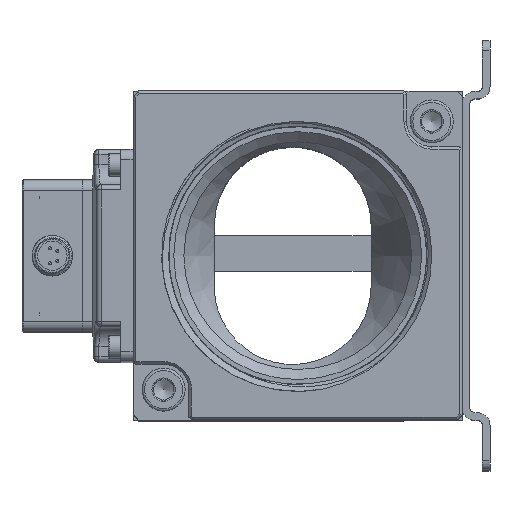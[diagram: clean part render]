
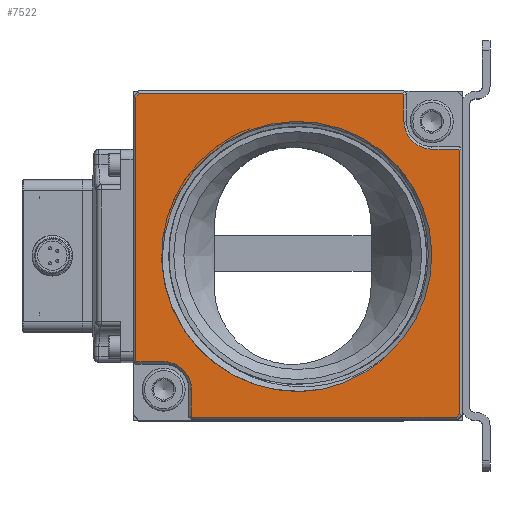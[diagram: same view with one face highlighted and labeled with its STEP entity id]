
A CAD part, top view. The second image highlights one B-rep face of the part: STEP entity #7522.
In plain terms, the highlighted planar face has unit normal (0, 0, 1).
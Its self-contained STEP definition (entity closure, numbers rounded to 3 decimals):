
#416=B_SPLINE_CURVE_WITH_KNOTS('',3,(#37040,#37041,#37042,#37043),
 .UNSPECIFIED.,.F.,.F.,(4,4),(0.,1.),.UNSPECIFIED.);
#417=B_SPLINE_CURVE_WITH_KNOTS('',3,(#37047,#37048,#37049,#37050),
 .UNSPECIFIED.,.F.,.F.,(4,4),(0.,1.),.UNSPECIFIED.);
#2225=LINE('',#36196,#4544);
#2229=LINE('',#36208,#4548);
#2235=LINE('',#36221,#4554);
#2239=LINE('',#36233,#4558);
#2242=LINE('',#36239,#4561);
#2244=LINE('',#36244,#4563);
#2246=LINE('',#36247,#4565);
#2257=LINE('',#36271,#4576);
#2267=LINE('',#36952,#4586);
#2272=LINE('',#36962,#4591);
#2275=LINE('',#36968,#4594);
#2277=LINE('',#36971,#4596);
#2285=LINE('',#36989,#4604);
#2290=LINE('',#36999,#4609);
#4544=VECTOR('',#29136,1.);
#4548=VECTOR('',#29148,1.);
#4554=VECTOR('',#29156,1.);
#4558=VECTOR('',#29168,1.);
#4561=VECTOR('',#29173,1.);
#4563=VECTOR('',#29177,1.);
#4565=VECTOR('',#29181,1.);
#4576=VECTOR('',#29202,1.);
#4586=VECTOR('',#29226,1.);
#4591=VECTOR('',#29235,1.);
#4594=VECTOR('',#29242,1.);
#4596=VECTOR('',#29246,1.);
#4604=VECTOR('',#29262,1.);
#4609=VECTOR('',#29271,1.);
#7522=ADVANCED_FACE('',(#10017,#10018),#9076,.F.);
#9076=PLANE('',#26832);
#10017=FACE_BOUND('',#10782,.T.);
#10018=FACE_BOUND('',#10783,.T.);
#10782=EDGE_LOOP('',(#12879,#12880,#12881,#12882,#12883,#12884,#12885,#12886,
#12887,#12888,#12889,#12890,#12891,#12892,#12893,#12894));
#10783=EDGE_LOOP('',(#12895,#12896,#12897,#12898));
#12879=ORIENTED_EDGE('',*,*,#22389,.T.);
#12880=ORIENTED_EDGE('',*,*,#22386,.T.);
#12881=ORIENTED_EDGE('',*,*,#22381,.T.);
#12882=ORIENTED_EDGE('',*,*,#22351,.T.);
#12883=ORIENTED_EDGE('',*,*,#22348,.T.);
#12884=ORIENTED_EDGE('',*,*,#22345,.T.);
#12885=ORIENTED_EDGE('',*,*,#22342,.T.);
#12886=ORIENTED_EDGE('',*,*,#22367,.T.);
#12887=ORIENTED_EDGE('',*,*,#22405,.T.);
#12888=ORIENTED_EDGE('',*,*,#22400,.T.);
#12889=ORIENTED_EDGE('',*,*,#22391,.T.);
#12890=ORIENTED_EDGE('',*,*,#22355,.T.);
#12891=ORIENTED_EDGE('',*,*,#22336,.T.);
#12892=ORIENTED_EDGE('',*,*,#22333,.T.);
#12893=ORIENTED_EDGE('',*,*,#22330,.T.);
#12894=ORIENTED_EDGE('',*,*,#22353,.T.);
#12895=ORIENTED_EDGE('',*,*,#22423,.F.);
#12896=ORIENTED_EDGE('',*,*,#22424,.T.);
#12897=ORIENTED_EDGE('',*,*,#22425,.F.);
#12898=ORIENTED_EDGE('',*,*,#22375,.F.);
#19915=VERTEX_POINT('',#36195);
#19916=VERTEX_POINT('',#36197);
#19918=VERTEX_POINT('',#36203);
#19920=VERTEX_POINT('',#36209);
#19922=VERTEX_POINT('',#36215);
#19925=VERTEX_POINT('',#36220);
#19926=VERTEX_POINT('',#36224);
#19928=VERTEX_POINT('',#36230);
#19930=VERTEX_POINT('',#36236);
#19933=VERTEX_POINT('',#36243);
#19934=VERTEX_POINT('',#36248);
#19941=VERTEX_POINT('',#36270);
#19946=VERTEX_POINT('',#36288);
#19947=VERTEX_POINT('',#36289);
#19950=VERTEX_POINT('',#36949);
#19953=VERTEX_POINT('',#36959);
#19956=VERTEX_POINT('',#36972);
#19962=VERTEX_POINT('',#36990);
#19972=VERTEX_POINT('',#37044);
#19973=VERTEX_POINT('',#37046);
#22330=EDGE_CURVE('',#19916,#19915,#2225,.T.);
#22333=EDGE_CURVE('',#19918,#19916,#25934,.T.);
#22336=EDGE_CURVE('',#19920,#19918,#2229,.T.);
#22342=EDGE_CURVE('',#19922,#19925,#2235,.T.);
#22345=EDGE_CURVE('',#19926,#19922,#25937,.T.);
#22348=EDGE_CURVE('',#19928,#19926,#2239,.T.);
#22351=EDGE_CURVE('',#19930,#19928,#2242,.T.);
#22353=EDGE_CURVE('',#19915,#19933,#2244,.T.);
#22355=EDGE_CURVE('',#19934,#19920,#2246,.T.);
#22367=EDGE_CURVE('',#19925,#19941,#2257,.T.);
#22375=EDGE_CURVE('',#19946,#19947,#25940,.T.);
#22381=EDGE_CURVE('',#19950,#19930,#2267,.T.);
#22386=EDGE_CURVE('',#19953,#19950,#2272,.T.);
#22389=EDGE_CURVE('',#19933,#19953,#2275,.T.);
#22391=EDGE_CURVE('',#19956,#19934,#2277,.T.);
#22400=EDGE_CURVE('',#19962,#19956,#2285,.T.);
#22405=EDGE_CURVE('',#19941,#19962,#2290,.T.);
#22423=EDGE_CURVE('',#19972,#19946,#416,.T.);
#22424=EDGE_CURVE('',#19972,#19973,#25947,.T.);
#22425=EDGE_CURVE('',#19947,#19973,#417,.T.);
#25934=CIRCLE('',#26776,5.5);
#25937=CIRCLE('',#26782,5.5);
#25940=CIRCLE('',#26797,26.873);
#25947=CIRCLE('',#26831,26.5);
#26776=AXIS2_PLACEMENT_3D('',#36202,#29141,#29142);
#26782=AXIS2_PLACEMENT_3D('',#36227,#29162,#29163);
#26797=AXIS2_PLACEMENT_3D('',#36287,#29219,#29220);
#26831=AXIS2_PLACEMENT_3D('',#37045,#29326,#29327);
#26832=AXIS2_PLACEMENT_3D('',#37051,#29328,#29329);
#29136=DIRECTION('',(0.,1.,0.));
#29141=DIRECTION('',(0.,0.,-1.));
#29142=DIRECTION('',(-1.,0.,0.));
#29148=DIRECTION('',(-1.,0.,0.));
#29156=DIRECTION('',(0.,-1.,0.));
#29162=DIRECTION('',(0.,0.,-1.));
#29163=DIRECTION('',(-1.,0.,0.));
#29168=DIRECTION('',(1.,-0.002,0.));
#29173=DIRECTION('',(0.707,-0.708,0.));
#29177=DIRECTION('',(-0.707,0.707,0.));
#29181=DIRECTION('',(-0.707,0.707,0.));
#29202=DIRECTION('',(0.707,-0.707,0.));
#29219=DIRECTION('',(0.,0.,1.));
#29220=DIRECTION('',(-1.,0.,0.));
#29226=DIRECTION('',(0.,-1.,0.));
#29235=DIRECTION('',(-0.707,-0.707,0.));
#29242=DIRECTION('',(-1.,0.,0.));
#29246=DIRECTION('',(0.,1.,0.));
#29262=DIRECTION('',(0.707,0.707,0.));
#29271=DIRECTION('',(1.,0.,0.));
#29326=DIRECTION('',(0.,0.,-1.));
#29327=DIRECTION('',(-1.,0.,0.));
#29328=DIRECTION('',(0.,0.,-1.));
#29329=DIRECTION('',(-1.,0.,0.));
#36195=CARTESIAN_POINT('',(50.5,59.293,22.));
#36196=CARTESIAN_POINT('',(50.5,59.5,22.));
#36197=CARTESIAN_POINT('',(50.5,54.,22.));
#36202=CARTESIAN_POINT('',(56.,54.,22.));
#36203=CARTESIAN_POINT('',(56.,48.5,22.));
#36208=CARTESIAN_POINT('',(56.,48.5,22.));
#36209=CARTESIAN_POINT('',(61.293,48.5,22.));
#36215=CARTESIAN_POINT('',(8.5,1.,22.));
#36220=CARTESIAN_POINT('',(8.5,-4.293,22.));
#36221=CARTESIAN_POINT('',(8.5,-4.5,22.));
#36224=CARTESIAN_POINT('',(3.009,6.5,22.));
#36227=CARTESIAN_POINT('',(3.,1.,22.));
#36230=CARTESIAN_POINT('',(-2.292,6.508,22.));
#36233=CARTESIAN_POINT('',(3.009,6.5,22.));
#36236=CARTESIAN_POINT('',(-2.5,6.716,22.));
#36239=CARTESIAN_POINT('',(-2.146,6.362,22.));
#36243=CARTESIAN_POINT('',(50.293,59.5,22.));
#36244=CARTESIAN_POINT('',(50.146,59.646,22.));
#36247=CARTESIAN_POINT('',(61.146,48.646,22.));
#36248=CARTESIAN_POINT('',(61.5,48.293,22.));
#36270=CARTESIAN_POINT('',(8.707,-4.5,22.));
#36271=CARTESIAN_POINT('',(8.854,-4.646,22.));
#36287=CARTESIAN_POINT('',(29.5,27.5,22.));
#36288=CARTESIAN_POINT('',(3.2,21.982,22.));
#36289=CARTESIAN_POINT('',(34.724,1.14,22.));
#36949=CARTESIAN_POINT('',(-2.5,58.793,22.));
#36952=CARTESIAN_POINT('',(-2.5,6.509,22.));
#36959=CARTESIAN_POINT('',(-1.793,59.5,22.));
#36962=CARTESIAN_POINT('',(-2.646,58.646,22.));
#36968=CARTESIAN_POINT('',(-2.,59.5,22.));
#36971=CARTESIAN_POINT('',(61.5,48.5,22.));
#36972=CARTESIAN_POINT('',(61.5,-3.793,22.));
#36989=CARTESIAN_POINT('',(61.646,-3.646,22.));
#36990=CARTESIAN_POINT('',(60.793,-4.5,22.));
#36999=CARTESIAN_POINT('',(61.,-4.5,22.));
#37040=CARTESIAN_POINT('',(4.371,35.915,22.));
#37041=CARTESIAN_POINT('',(2.748,31.456,22.));
#37042=CARTESIAN_POINT('',(2.348,26.649,22.));
#37043=CARTESIAN_POINT('',(3.2,21.982,22.));
#37044=CARTESIAN_POINT('',(4.371,35.915,22.));
#37045=CARTESIAN_POINT('',(29.5,27.5,22.));
#37046=CARTESIAN_POINT('',(47.091,7.68,22.));
#37047=CARTESIAN_POINT('',(34.724,1.14,22.));
#37048=CARTESIAN_POINT('',(39.355,2.185,22.));
#37049=CARTESIAN_POINT('',(43.624,4.437,22.));
#37050=CARTESIAN_POINT('',(47.091,7.68,22.));
#37051=CARTESIAN_POINT('',(29.5,27.5,22.));
